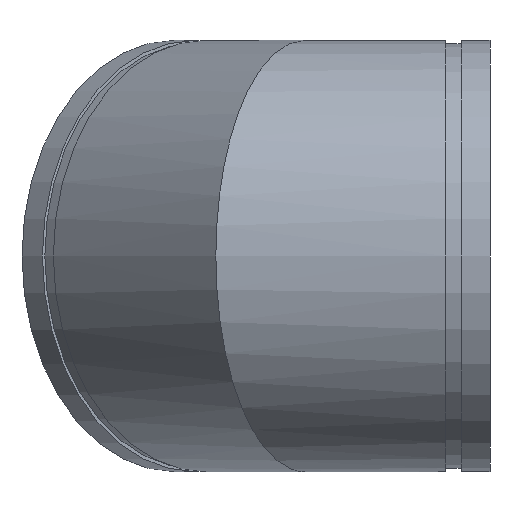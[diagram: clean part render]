
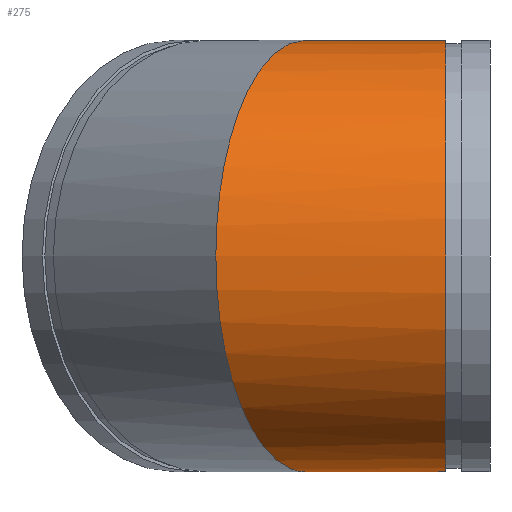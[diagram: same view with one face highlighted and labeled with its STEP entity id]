
A CAD part, left-side view. The second image highlights one B-rep face of the part: STEP entity #275.
In plain terms, the highlighted cylindrical face has radius 177.8 mm (diameter 355.6 mm), a full revolution.
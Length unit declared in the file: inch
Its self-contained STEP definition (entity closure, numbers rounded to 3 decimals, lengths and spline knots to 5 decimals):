
#48=ELLIPSE('',#329,7.57675,7.);
#49=ELLIPSE('',#330,7.57675,7.);
#50=ELLIPSE('',#331,7.57675,7.);
#73=FACE_OUTER_BOUND('',#91,.T.);
#91=EDGE_LOOP('',(#225,#226,#227,#228,#229,#230));
#103=LINE('',#513,#111);
#111=VECTOR('',#416,7.);
#117=CIRCLE('',#305,7.);
#133=VERTEX_POINT('',#468);
#148=VERTEX_POINT('',#512);
#149=VERTEX_POINT('',#514);
#150=VERTEX_POINT('',#516);
#156=EDGE_CURVE('',#133,#133,#117,.T.);
#176=EDGE_CURVE('',#133,#148,#103,.T.);
#177=EDGE_CURVE('',#148,#149,#48,.T.);
#178=EDGE_CURVE('',#150,#149,#49,.T.);
#179=EDGE_CURVE('',#150,#148,#50,.T.);
#225=ORIENTED_EDGE('',*,*,#156,.T.);
#226=ORIENTED_EDGE('',*,*,#176,.T.);
#227=ORIENTED_EDGE('',*,*,#177,.T.);
#228=ORIENTED_EDGE('',*,*,#178,.F.);
#229=ORIENTED_EDGE('',*,*,#179,.T.);
#230=ORIENTED_EDGE('',*,*,#176,.F.);
#247=CYLINDRICAL_SURFACE('',#328,7.);
#275=ADVANCED_FACE('',(#73),#247,.T.);
#305=AXIS2_PLACEMENT_3D('',#469,#363,#364);
#328=AXIS2_PLACEMENT_3D('',#511,#414,#415);
#329=AXIS2_PLACEMENT_3D('',#515,#417,#418);
#330=AXIS2_PLACEMENT_3D('',#517,#419,#420);
#331=AXIS2_PLACEMENT_3D('',#518,#421,#422);
#363=DIRECTION('center_axis',(0.,1.,0.));
#364=DIRECTION('ref_axis',(1.,0.,0.));
#414=DIRECTION('center_axis',(0.,-1.,0.));
#415=DIRECTION('ref_axis',(1.,0.,0.));
#416=DIRECTION('',(0.,1.,0.));
#417=DIRECTION('center_axis',(-0.383,-0.924,0.));
#418=DIRECTION('ref_axis',(0.924,-0.383,0.));
#419=DIRECTION('center_axis',(0.383,0.924,0.));
#420=DIRECTION('ref_axis',(0.924,-0.383,0.));
#421=DIRECTION('center_axis',(-0.383,-0.924,0.));
#422=DIRECTION('ref_axis',(0.924,-0.383,0.));
#468=CARTESIAN_POINT('',(-7.,-4.562,0.));
#469=CARTESIAN_POINT('Origin',(0.,-4.562,0.));
#511=CARTESIAN_POINT('Origin',(0.,0.,0.));
#512=CARTESIAN_POINT('',(-7.,2.89949,0.));
#513=CARTESIAN_POINT('',(-7.,0.,0.));
#514=CARTESIAN_POINT('',(0.,0.,-7.));
#515=CARTESIAN_POINT('Origin',(0.,0.,0.));
#516=CARTESIAN_POINT('',(0.,0.,7.));
#517=CARTESIAN_POINT('Origin',(0.,0.,0.));
#518=CARTESIAN_POINT('Origin',(0.,0.,0.));
